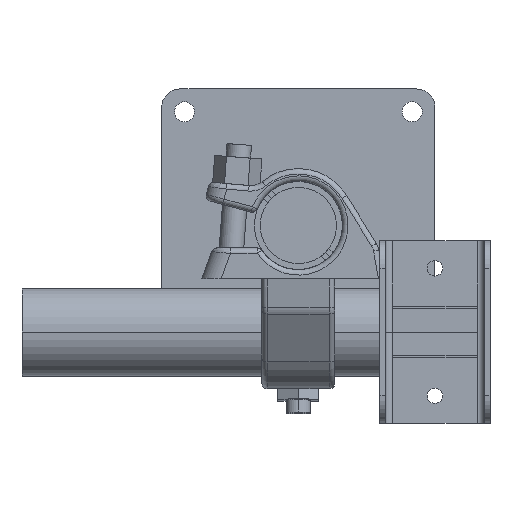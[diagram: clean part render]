
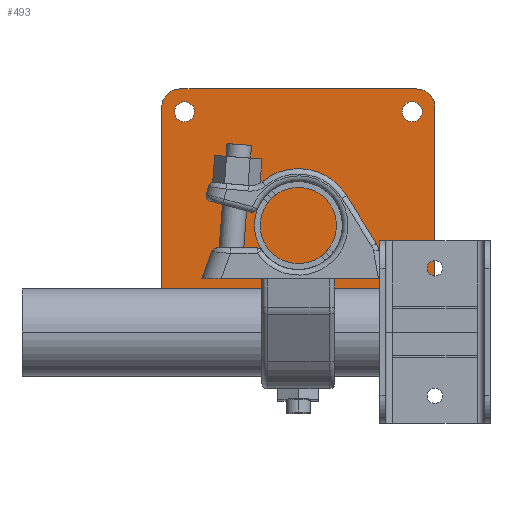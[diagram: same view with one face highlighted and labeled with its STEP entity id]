
A CAD part, front view. The second image highlights one B-rep face of the part: STEP entity #493.
In plain terms, the highlighted planar face has unit normal (0, -1, 0).
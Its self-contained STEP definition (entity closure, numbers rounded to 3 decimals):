
#122=DIRECTION('',(-1.,0.,0.));
#123=VECTOR('',#122,130.);
#124=CARTESIAN_POINT('',(65.,-6.,-75.));
#125=LINE('',#124,#123);
#126=CARTESIAN_POINT('',(-65.,-6.,-65.));
#127=DIRECTION('',(0.,1.,0.));
#128=DIRECTION('',(0.,0.,-1.));
#129=AXIS2_PLACEMENT_3D('',#126,#127,#128);
#131=DIRECTION('',(0.,0.,1.));
#132=VECTOR('',#131,130.);
#133=CARTESIAN_POINT('',(-75.,-6.,-65.));
#134=LINE('',#133,#132);
#135=CARTESIAN_POINT('',(-65.,-6.,65.));
#136=DIRECTION('',(0.,1.,0.));
#137=DIRECTION('',(-1.,0.,0.));
#138=AXIS2_PLACEMENT_3D('',#135,#136,#137);
#140=DIRECTION('',(1.,0.,0.));
#141=VECTOR('',#140,130.);
#142=CARTESIAN_POINT('',(-65.,-6.,75.));
#143=LINE('',#142,#141);
#144=CARTESIAN_POINT('',(65.,-6.,65.));
#145=DIRECTION('',(0.,1.,0.));
#146=DIRECTION('',(0.,0.,1.));
#147=AXIS2_PLACEMENT_3D('',#144,#145,#146);
#149=DIRECTION('',(0.,0.,-1.));
#150=VECTOR('',#149,130.);
#151=CARTESIAN_POINT('',(75.,-6.,65.));
#152=LINE('',#151,#150);
#153=CARTESIAN_POINT('',(65.,-6.,-65.));
#154=DIRECTION('',(0.,1.,0.));
#155=DIRECTION('',(1.,0.,0.));
#156=AXIS2_PLACEMENT_3D('',#153,#154,#155);
#158=CARTESIAN_POINT('',(-62.5,-6.,62.5));
#159=DIRECTION('',(0.,-1.,0.));
#160=DIRECTION('',(1.,0.,0.));
#161=AXIS2_PLACEMENT_3D('',#158,#159,#160);
#163=CARTESIAN_POINT('',(-62.5,-6.,62.5));
#164=DIRECTION('',(0.,-1.,0.));
#165=DIRECTION('',(-1.,0.,0.));
#166=AXIS2_PLACEMENT_3D('',#163,#164,#165);
#168=CARTESIAN_POINT('',(62.5,-6.,62.5));
#169=DIRECTION('',(0.,-1.,0.));
#170=DIRECTION('',(1.,0.,0.));
#171=AXIS2_PLACEMENT_3D('',#168,#169,#170);
#173=CARTESIAN_POINT('',(62.5,-6.,62.5));
#174=DIRECTION('',(0.,-1.,0.));
#175=DIRECTION('',(-1.,0.,0.));
#176=AXIS2_PLACEMENT_3D('',#173,#174,#175);
#178=CARTESIAN_POINT('',(-62.5,-6.,-62.5));
#179=DIRECTION('',(0.,-1.,0.));
#180=DIRECTION('',(1.,0.,0.));
#181=AXIS2_PLACEMENT_3D('',#178,#179,#180);
#183=CARTESIAN_POINT('',(-62.5,-6.,-62.5));
#184=DIRECTION('',(0.,-1.,0.));
#185=DIRECTION('',(-1.,0.,0.));
#186=AXIS2_PLACEMENT_3D('',#183,#184,#185);
#188=CARTESIAN_POINT('',(62.5,-6.,-62.5));
#189=DIRECTION('',(0.,-1.,0.));
#190=DIRECTION('',(1.,0.,0.));
#191=AXIS2_PLACEMENT_3D('',#188,#189,#190);
#193=CARTESIAN_POINT('',(62.5,-6.,-62.5));
#194=DIRECTION('',(0.,-1.,0.));
#195=DIRECTION('',(-1.,0.,0.));
#196=AXIS2_PLACEMENT_3D('',#193,#194,#195);
#246=CARTESIAN_POINT('',(65.,-6.,-75.));
#247=CARTESIAN_POINT('',(-65.,-6.,-75.));
#248=VERTEX_POINT('',#246);
#249=VERTEX_POINT('',#247);
#250=CARTESIAN_POINT('',(-75.,-6.,-65.));
#251=VERTEX_POINT('',#250);
#252=CARTESIAN_POINT('',(-75.,-6.,65.));
#253=VERTEX_POINT('',#252);
#254=CARTESIAN_POINT('',(-65.,-6.,75.));
#255=VERTEX_POINT('',#254);
#256=CARTESIAN_POINT('',(65.,-6.,75.));
#257=VERTEX_POINT('',#256);
#258=CARTESIAN_POINT('',(75.,-6.,65.));
#259=VERTEX_POINT('',#258);
#260=CARTESIAN_POINT('',(75.,-6.,-65.));
#261=VERTEX_POINT('',#260);
#266=CARTESIAN_POINT('',(-57.,-6.,62.5));
#267=CARTESIAN_POINT('',(-68.,-6.,62.5));
#268=VERTEX_POINT('',#266);
#269=VERTEX_POINT('',#267);
#282=CARTESIAN_POINT('',(68.,-6.,62.5));
#283=CARTESIAN_POINT('',(57.,-6.,62.5));
#284=VERTEX_POINT('',#282);
#285=VERTEX_POINT('',#283);
#286=CARTESIAN_POINT('',(-57.,-6.,-62.5));
#287=CARTESIAN_POINT('',(-68.,-6.,-62.5));
#288=VERTEX_POINT('',#286);
#289=VERTEX_POINT('',#287);
#290=CARTESIAN_POINT('',(68.,-6.,-62.5));
#291=CARTESIAN_POINT('',(57.,-6.,-62.5));
#292=VERTEX_POINT('',#290);
#293=VERTEX_POINT('',#291);
#454=CARTESIAN_POINT('',(0.,-6.,0.));
#455=DIRECTION('',(0.,1.,0.));
#456=DIRECTION('',(1.,0.,0.));
#457=AXIS2_PLACEMENT_3D('',#454,#455,#456);
#458=PLANE('',#457);
#459=ORIENTED_EDGE('',*,*,#350,.T.);
#460=ORIENTED_EDGE('',*,*,#365,.T.);
#461=ORIENTED_EDGE('',*,*,#379,.T.);
#462=ORIENTED_EDGE('',*,*,#393,.T.);
#463=ORIENTED_EDGE('',*,*,#407,.T.);
#464=ORIENTED_EDGE('',*,*,#421,.T.);
#465=ORIENTED_EDGE('',*,*,#435,.T.);
#466=ORIENTED_EDGE('',*,*,#448,.T.);
#467=EDGE_LOOP('',(#459,#460,#461,#462,#463,#464,#465,#466));
#468=FACE_OUTER_BOUND('',#467,.F.);
#470=ORIENTED_EDGE('',*,*,#469,.T.);
#472=ORIENTED_EDGE('',*,*,#471,.T.);
#473=EDGE_LOOP('',(#470,#472));
#474=FACE_BOUND('',#473,.F.);
#476=ORIENTED_EDGE('',*,*,#475,.T.);
#478=ORIENTED_EDGE('',*,*,#477,.T.);
#479=EDGE_LOOP('',(#476,#478));
#480=FACE_BOUND('',#479,.F.);
#482=ORIENTED_EDGE('',*,*,#481,.T.);
#484=ORIENTED_EDGE('',*,*,#483,.T.);
#485=EDGE_LOOP('',(#482,#484));
#486=FACE_BOUND('',#485,.F.);
#488=ORIENTED_EDGE('',*,*,#487,.T.);
#490=ORIENTED_EDGE('',*,*,#489,.T.);
#491=EDGE_LOOP('',(#488,#490));
#492=FACE_BOUND('',#491,.F.);
#130=CIRCLE('',#129,10.);
#139=CIRCLE('',#138,10.);
#148=CIRCLE('',#147,10.);
#157=CIRCLE('',#156,10.);
#162=CIRCLE('',#161,5.5);
#167=CIRCLE('',#166,5.5);
#172=CIRCLE('',#171,5.5);
#177=CIRCLE('',#176,5.5);
#182=CIRCLE('',#181,5.5);
#187=CIRCLE('',#186,5.5);
#192=CIRCLE('',#191,5.5);
#197=CIRCLE('',#196,5.5);
#350=EDGE_CURVE('',#248,#249,#125,.T.);
#365=EDGE_CURVE('',#249,#251,#130,.T.);
#379=EDGE_CURVE('',#251,#253,#134,.T.);
#393=EDGE_CURVE('',#253,#255,#139,.T.);
#407=EDGE_CURVE('',#255,#257,#143,.T.);
#421=EDGE_CURVE('',#257,#259,#148,.T.);
#435=EDGE_CURVE('',#259,#261,#152,.T.);
#448=EDGE_CURVE('',#261,#248,#157,.T.);
#469=EDGE_CURVE('',#268,#269,#162,.T.);
#471=EDGE_CURVE('',#269,#268,#167,.T.);
#475=EDGE_CURVE('',#284,#285,#172,.T.);
#477=EDGE_CURVE('',#285,#284,#177,.T.);
#481=EDGE_CURVE('',#288,#289,#182,.T.);
#483=EDGE_CURVE('',#289,#288,#187,.T.);
#487=EDGE_CURVE('',#292,#293,#192,.T.);
#489=EDGE_CURVE('',#293,#292,#197,.T.);
#493=ADVANCED_FACE('',(#468,#474,#480,#486,#492),#458,.F.);
